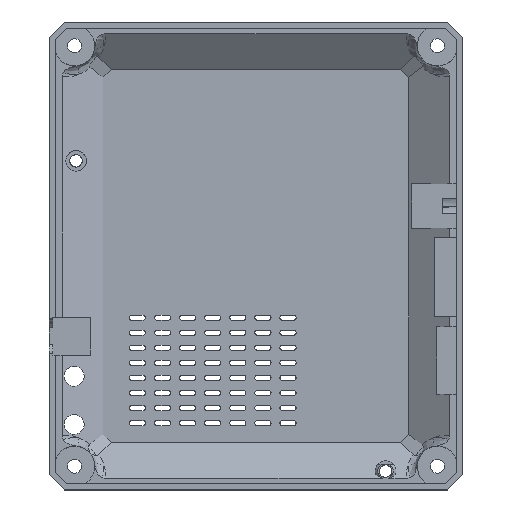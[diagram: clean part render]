
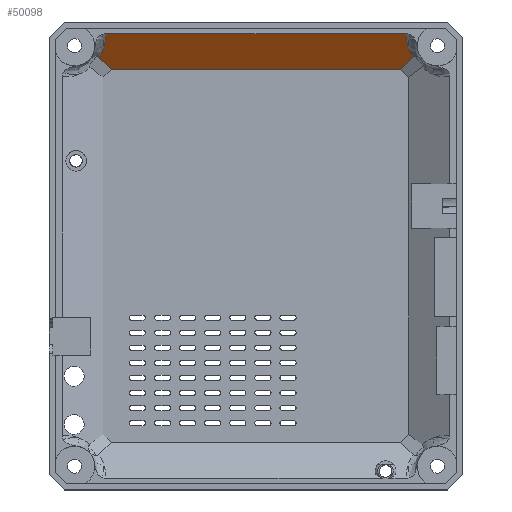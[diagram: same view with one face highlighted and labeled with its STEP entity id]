
A CAD part, top view. The second image highlights one B-rep face of the part: STEP entity #50098.
In plain terms, the highlighted planar face has unit normal (0, -0.616, 0.788).
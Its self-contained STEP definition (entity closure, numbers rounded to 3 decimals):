
#33 = LINE ( 'NONE', #20440, #13949 ) ;
#76 =( BOUNDED_CURVE ( )  B_SPLINE_CURVE ( 3, ( #37208, #25059, #41909, #20926 ),
 .UNSPECIFIED., .F., .T. ) 
 B_SPLINE_CURVE_WITH_KNOTS ( ( 4, 4 ),
 ( 4.091, 4.43 ),
 .UNSPECIFIED. ) 
 CURVE ( )  GEOMETRIC_REPRESENTATION_ITEM ( )  RATIONAL_B_SPLINE_CURVE ( ( 1., 0.99, 0.99, 1. ) ) 
 REPRESENTATION_ITEM ( '' )  );
#616 = ORIENTED_EDGE ( 'NONE', *, *, #3095, .T. ) ;
#731 = VERTEX_POINT ( 'NONE', #14212 ) ;
#2252 = LINE ( 'NONE', #53267, #32442 ) ;
#3095 = EDGE_CURVE ( 'NONE', #43514, #35118, #33, .T. ) ;
#3497 = DIRECTION ( 'NONE',  ( -0.636, -0.608, -0.476 ) ) ;
#4219 = CARTESIAN_POINT ( 'NONE',  ( 31.85, 80.988, -0.594 ) ) ;
#4487 = PLANE ( 'NONE',  #54560 ) ;
#6926 = DIRECTION ( 'NONE',  ( 1., 0., 0. ) ) ;
#8214 = VERTEX_POINT ( 'NONE', #16667 ) ;
#11218 = VERTEX_POINT ( 'NONE', #16352 ) ;
#11769 = CARTESIAN_POINT ( 'NONE',  ( 1.876, 79.395, -1.839 ) ) ;
#11782 = LINE ( 'NONE', #53986, #16149 ) ;
#12027 = ORIENTED_EDGE ( 'NONE', *, *, #36404, .T. ) ;
#13296 = VERTEX_POINT ( 'NONE', #37700 ) ;
#13453 =( BOUNDED_CURVE ( )  B_SPLINE_CURVE ( 3, ( #32669, #23585, #40158, #19707 ),
 .UNSPECIFIED., .F., .T. ) 
 B_SPLINE_CURVE_WITH_KNOTS ( ( 4, 4 ),
 ( 1.853, 2.198 ),
 .UNSPECIFIED. ) 
 CURVE ( )  GEOMETRIC_REPRESENTATION_ITEM ( )  RATIONAL_B_SPLINE_CURVE ( ( 1., 0.99, 0.99, 1. ) ) 
 REPRESENTATION_ITEM ( '' )  );
#13949 = VECTOR ( 'NONE', #33153, 1000. ) ;
#14212 = CARTESIAN_POINT ( 'NONE',  ( 63.123, 74.737, -5.482 ) ) ;
#15082 = CARTESIAN_POINT ( 'NONE',  ( 1.961, 78.433, -2.592 ) ) ;
#15611 = DIRECTION ( 'NONE',  ( 0., 0.616, -0.788 ) ) ;
#15702 = EDGE_CURVE ( 'NONE', #731, #35118, #28305, .T. ) ;
#16149 = VECTOR ( 'NONE', #16181, 1000. ) ;
#16181 = DIRECTION ( 'NONE',  ( 0.633, -0.61, -0.477 ) ) ;
#16352 = CARTESIAN_POINT ( 'NONE',  ( 62.238, 76.56, -4.057 ) ) ;
#16667 = CARTESIAN_POINT ( 'NONE',  ( 1.876, 79.395, -1.839 ) ) ;
#17002 =( BOUNDED_CURVE ( )  B_SPLINE_CURVE ( 3, ( #11769, #15082, #23649, #20043 ),
 .UNSPECIFIED., .F., .F. ) 
 B_SPLINE_CURVE_WITH_KNOTS ( ( 4, 4 ),
 ( 1.482, 1.948 ),
 .UNSPECIFIED. ) 
 CURVE ( )  GEOMETRIC_REPRESENTATION_ITEM ( )  RATIONAL_B_SPLINE_CURVE ( ( 1., 0.97, 0.957, 0.962 ) ) 
 REPRESENTATION_ITEM ( '' )  );
#17886 = EDGE_CURVE ( 'NONE', #11218, #20583, #34555, .T. ) ;
#19707 = CARTESIAN_POINT ( 'NONE',  ( 0.557, 74.709, -5.504 ) ) ;
#20043 = CARTESIAN_POINT ( 'NONE',  ( 1.462, 76.56, -4.057 ) ) ;
#20306 = CARTESIAN_POINT ( 'NONE',  ( 60.641, 72.363, -7.339 ) ) ;
#20440 = CARTESIAN_POINT ( 'NONE',  ( 0., 72.363, -7.339 ) ) ;
#20583 = VERTEX_POINT ( 'NONE', #52136 ) ;
#20926 = CARTESIAN_POINT ( 'NONE',  ( 62.238, 76.56, -4.057 ) ) ;
#23585 = CARTESIAN_POINT ( 'NONE',  ( 1.269, 75.894, -4.578 ) ) ;
#23649 = CARTESIAN_POINT ( 'NONE',  ( 1.824, 77.47, -3.345 ) ) ;
#25059 = CARTESIAN_POINT ( 'NONE',  ( 62.726, 75.291, -5.049 ) ) ;
#25307 = CARTESIAN_POINT ( 'NONE',  ( 61.824, 79.395, -1.839 ) ) ;
#25450 = DIRECTION ( 'NONE',  ( -1., 0., 0. ) ) ;
#25575 = CARTESIAN_POINT ( 'NONE',  ( 61.739, 78.433, -2.592 ) ) ;
#26074 = ORIENTED_EDGE ( 'NONE', *, *, #34881, .T. ) ;
#27045 = ORIENTED_EDGE ( 'NONE', *, *, #28976, .T. ) ;
#28214 = EDGE_LOOP ( 'NONE', ( #41279, #26074, #34167, #44298, #12027, #27045, #50842, #616 ) ) ;
#28305 = LINE ( 'NONE', #37139, #44589 ) ;
#28976 = EDGE_CURVE ( 'NONE', #13296, #48009, #13453, .T. ) ;
#29435 = CARTESIAN_POINT ( 'NONE',  ( 61.876, 77.47, -3.345 ) ) ;
#32442 = VECTOR ( 'NONE', #6926, 1000. ) ;
#32669 = CARTESIAN_POINT ( 'NONE',  ( 1.462, 76.56, -4.057 ) ) ;
#33153 = DIRECTION ( 'NONE',  ( 1., 0., 0. ) ) ;
#34167 = ORIENTED_EDGE ( 'NONE', *, *, #17886, .T. ) ;
#34555 =( BOUNDED_CURVE ( )  B_SPLINE_CURVE ( 3, ( #50405, #29435, #25575, #25307 ),
 .UNSPECIFIED., .F., .F. ) 
 B_SPLINE_CURVE_WITH_KNOTS ( ( 4, 4 ),
 ( 4.335, 4.801 ),
 .UNSPECIFIED. ) 
 CURVE ( )  GEOMETRIC_REPRESENTATION_ITEM ( )  RATIONAL_B_SPLINE_CURVE ( ( 0.963, 0.958, 0.97, 1. ) ) 
 REPRESENTATION_ITEM ( '' )  );
#34881 = EDGE_CURVE ( 'NONE', #731, #11218, #76, .T. ) ;
#35118 = VERTEX_POINT ( 'NONE', #20306 ) ;
#36404 = EDGE_CURVE ( 'NONE', #8214, #13296, #17002, .T. ) ;
#37139 = CARTESIAN_POINT ( 'NONE',  ( 54.378, 66.373, -12.024 ) ) ;
#37208 = CARTESIAN_POINT ( 'NONE',  ( 63.123, 74.737, -5.482 ) ) ;
#37698 = EDGE_CURVE ( 'NONE', #48009, #43514, #11782, .T. ) ;
#37700 = CARTESIAN_POINT ( 'NONE',  ( 1.462, 76.56, -4.057 ) ) ;
#40158 = CARTESIAN_POINT ( 'NONE',  ( 0.964, 75.27, -5.065 ) ) ;
#41279 = ORIENTED_EDGE ( 'NONE', *, *, #15702, .F. ) ;
#41909 = CARTESIAN_POINT ( 'NONE',  ( 62.428, 75.905, -4.569 ) ) ;
#42480 = CARTESIAN_POINT ( 'NONE',  ( 2.992, 72.363, -7.339 ) ) ;
#43514 = VERTEX_POINT ( 'NONE', #42480 ) ;
#44298 = ORIENTED_EDGE ( 'NONE', *, *, #46749, .F. ) ;
#44589 = VECTOR ( 'NONE', #3497, 1000. ) ;
#46179 = CARTESIAN_POINT ( 'NONE',  ( 0.557, 74.709, -5.504 ) ) ;
#46749 = EDGE_CURVE ( 'NONE', #8214, #20583, #2252, .T. ) ;
#48009 = VERTEX_POINT ( 'NONE', #46179 ) ;
#50098 = ADVANCED_FACE ( 'NONE', ( #53409 ), #4487, .F. ) ;
#50405 = CARTESIAN_POINT ( 'NONE',  ( 62.238, 76.56, -4.057 ) ) ;
#50842 = ORIENTED_EDGE ( 'NONE', *, *, #37698, .T. ) ;
#52136 = CARTESIAN_POINT ( 'NONE',  ( 61.824, 79.395, -1.839 ) ) ;
#53267 = CARTESIAN_POINT ( 'NONE',  ( 31.85, 79.395, -1.839 ) ) ;
#53409 = FACE_OUTER_BOUND ( 'NONE', #28214, .T. ) ;
#53986 = CARTESIAN_POINT ( 'NONE',  ( -6.124, 81.146, -0.47 ) ) ;
#54560 = AXIS2_PLACEMENT_3D ( 'NONE', #4219, #15611, #25450 ) ;
